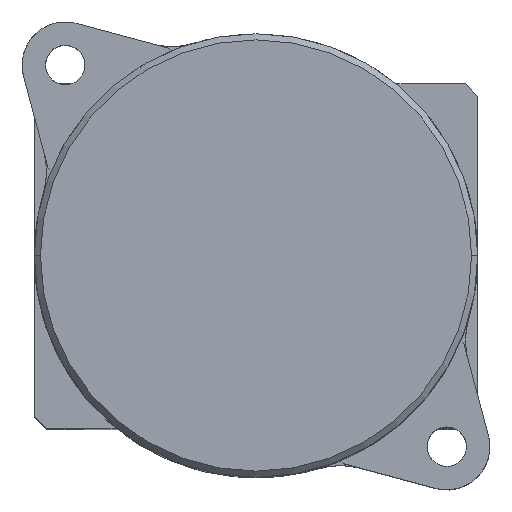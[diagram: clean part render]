
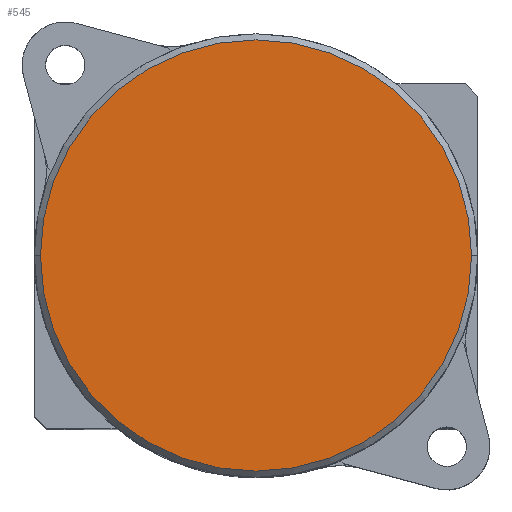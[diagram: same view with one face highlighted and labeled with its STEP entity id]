
A CAD part, top view. The second image highlights one B-rep face of the part: STEP entity #545.
In plain terms, the highlighted planar face has unit normal (0, 0, 1).
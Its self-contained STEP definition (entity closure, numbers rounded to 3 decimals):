
#545=ADVANCED_FACE('',(#1088),#9248,.T.);
#1088=FACE_OUTER_BOUND('',#1693,.T.);
#1693=EDGE_LOOP('',(#4333,#4334));
#4333=ORIENTED_EDGE('',*,*,#6094,.F.);
#4334=ORIENTED_EDGE('',*,*,#6012,.F.);
#6012=EDGE_CURVE('',#8910,#8959,#7575,.T.);
#6094=EDGE_CURVE('',#8959,#8910,#7615,.T.);
#7575=TRIMMED_CURVE($,#7985,(#17832),(#17833),.T.,.CARTESIAN.);
#7615=TRIMMED_CURVE($,#8025,(#18122),(#18123),.T.,.CARTESIAN.);
#7985=CIRCLE('',#10404,17.5);
#8025=CIRCLE('',#10444,17.5);
#8910=VERTEX_POINT('',#13589);
#8959=VERTEX_POINT('',#13638);
#9248=PLANE('',#10064);
#10064=AXIS2_PLACEMENT_3D('',#12684,#10936,$);
#10404=AXIS2_PLACEMENT_3D($,#17831,#11605,#11606);
#10444=AXIS2_PLACEMENT_3D($,#18121,#11685,#11686);
#10936=DIRECTION('',(0.,0.,1.));
#11605=DIRECTION('',(0.,0.,-1.));
#11606=DIRECTION('',(1.,0.,0.));
#11685=DIRECTION('',(0.,0.,-1.));
#11686=DIRECTION('',(-1.,0.,0.));
#12684=CARTESIAN_POINT('',(22.5,-22.5,126.));
#13589=CARTESIAN_POINT('',(17.5,0.,126.));
#13638=CARTESIAN_POINT('',(-17.5,0.,126.));
#17831=CARTESIAN_POINT('',(0.,0.,126.));
#17832=CARTESIAN_POINT('',(17.5,0.,126.));
#17833=CARTESIAN_POINT('',(-17.5,0.,126.));
#18121=CARTESIAN_POINT('',(0.,0.,126.));
#18122=CARTESIAN_POINT('',(-17.5,0.,126.));
#18123=CARTESIAN_POINT('',(17.5,0.,126.));
